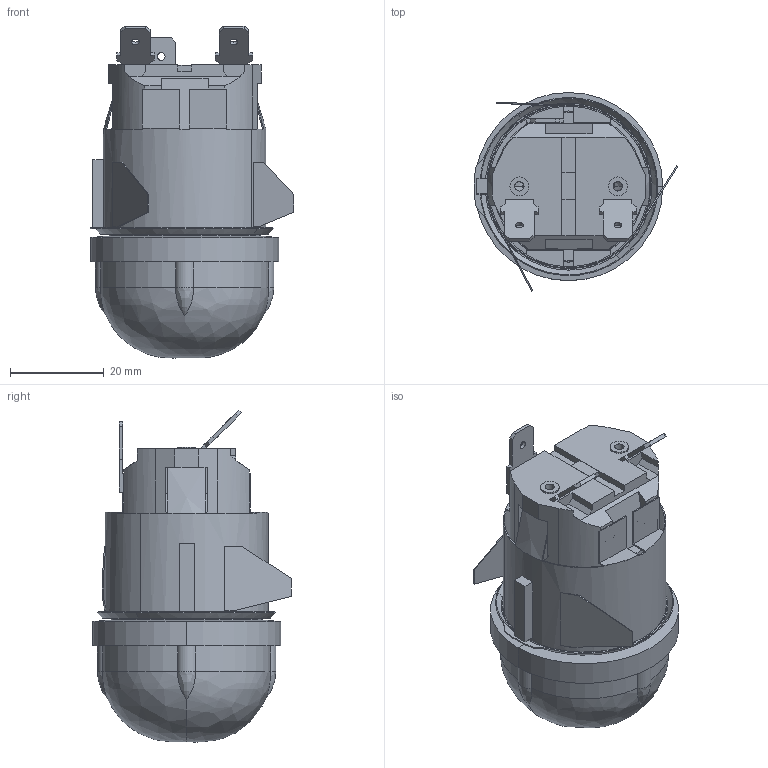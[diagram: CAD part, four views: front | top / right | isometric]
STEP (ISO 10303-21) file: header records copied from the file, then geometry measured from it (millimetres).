
FILE_DESCRIPTION((' '),'1');
FILE_NAME('011YV0MY04.stp','2013-03-11 T08:50:33',(''),(''),'STEP Interface 2012.185 by CT CoreTechnologie','3D_Evolution2012.185 by CT CoreTechnologie','');
FILE_SCHEMA(('AP203_CONFIGURATION_CONTROLLED_3D_DESIGN_OF_MECHANICAL_PARTS_AND_ASSEMBLIES_MIM_LF'));
Length unit declared in the file: millimetre
Products named in the file (5): Assem1; 002-102-08; 011-V01-01; 00Z-Z0H-03; 016-N05-08
Assembly tree (4 placements, depth 2):
  Assem1
    002-102-08
    011-V01-01
    00Z-Z0H-03
    016-N05-08
Bounding box: 43.43 x 42.4 x 70.75 mm (x, y, z)
Volume: 34453.6 mm3; surface area: 22110.7 mm2
Topology: 4 solids, 4 shells, 477 faces, 1226 edges, 784 vertices
Faces by surface type: plane 310, cylinder 101, bspline 66
Entity records: 20089 total; most frequent: CARTESIAN_POINT 4122, ORIENTED_EDGE 2432, DIRECTION 2380, EDGE_CURVE 1216, VECTOR 828, LINE 828, VERTEX_POINT 784, AXIS2_PLACEMENT_3D 776
